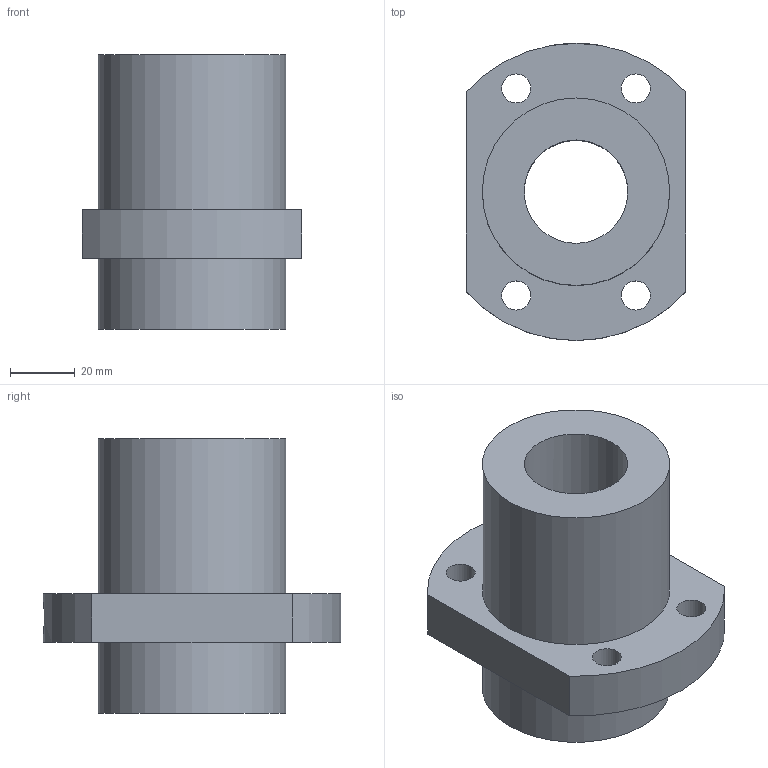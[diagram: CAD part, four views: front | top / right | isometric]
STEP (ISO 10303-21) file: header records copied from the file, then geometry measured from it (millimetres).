
FILE_DESCRIPTION(/* description */ (''),/* implementation_level */ '2;1');
FILE_NAME(/* name */ '32-32S2',/* time_stamp */ '2007-05-17T17:52:00+08:00',/* author */ (''),/* organization */ (''),/* preprocessor_version */ 'ST-DEVELOPER v9',/* originating_system */ 'UGS - NX 4.0',/* authorisation */ '');
FILE_SCHEMA (('CONFIG_CONTROL_DESIGN'));
Length unit declared in the file: millimetre
Products named in the file (1): 32-32S2
Bounding box: 68 x 92 x 85 mm (x, y, z)
Volume: 195325 mm3; surface area: 37018.2 mm2
Topology: 1 solids, 1 shells, 18 faces, 40 edges, 27 vertices
Faces by surface type: cylinder 11, plane 7
Full cylindrical faces by diameter (mm): 8 x1, 9 x4, 10 x1, 32 x1, 58 x2
Entity records: 638 total; most frequent: CARTESIAN_POINT 149, DIRECTION 86, ORIENTED_EDGE 60, EDGE_LOOP 42, AXIS2_PLACEMENT_3D 39, FACE_BOUND 33, EDGE_CURVE 30, VERTEX_POINT 26
